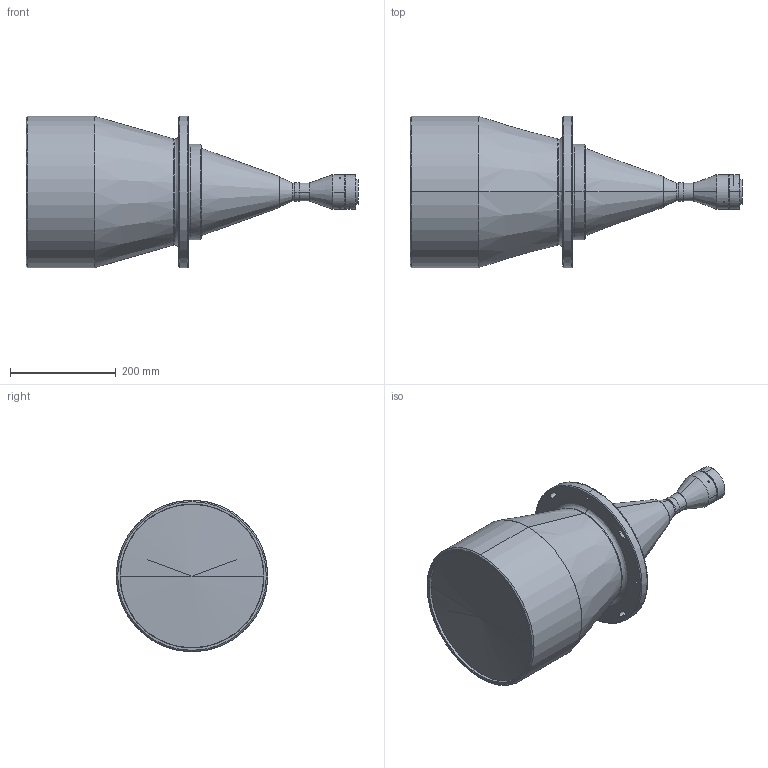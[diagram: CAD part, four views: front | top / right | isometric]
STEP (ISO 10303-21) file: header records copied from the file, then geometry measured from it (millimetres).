
FILE_DESCRIPTION (( 'STEP AP203' ), '1' );
FILE_NAME ('DTCM71M-240H-AL.STEP', '2023-12-25T07:30:53', ( '' ), ( '' ), 'SwSTEP 2.0', 'SolidWorks 2017', '' );
FILE_SCHEMA (( 'CONFIG_CONTROL_DESIGN' ));
Length unit declared in the file: millimetre
Products named in the file (1): DTCM71M-240H-AL
Bounding box: 627.51 x 286 x 286 mm (x, y, z)
Volume: 19086110.8 mm3; surface area: 498552.1 mm2
Topology: 1 solids, 1 shells, 140 faces, 352 edges, 224 vertices
Faces by surface type: cylinder 62, cone 37, plane 25, bspline 16
Entity records: 5585 total; most frequent: CARTESIAN_POINT 2144, DIRECTION 732, ORIENTED_EDGE 700, EDGE_CURVE 350, AXIS2_PLACEMENT_3D 308, VERTEX_POINT 224, CIRCLE 183, EDGE_LOOP 170
